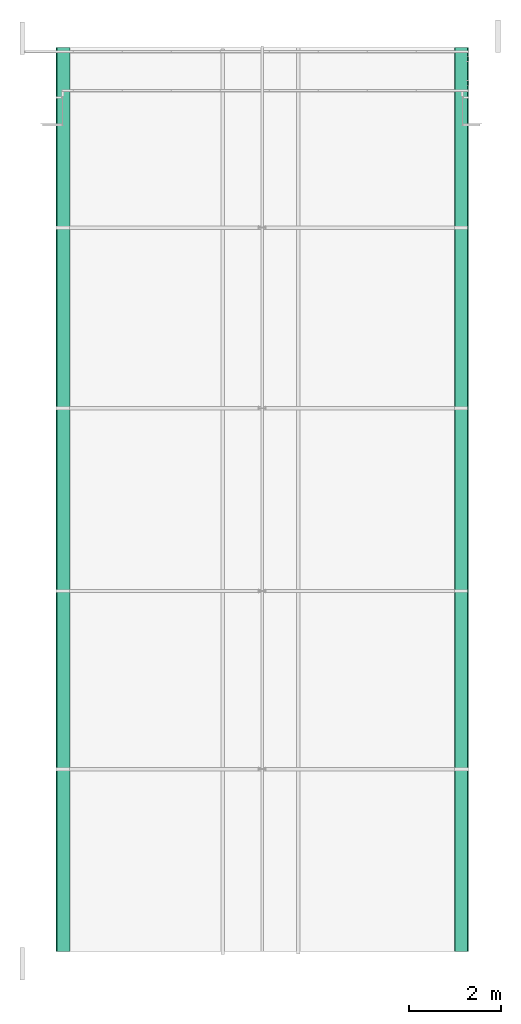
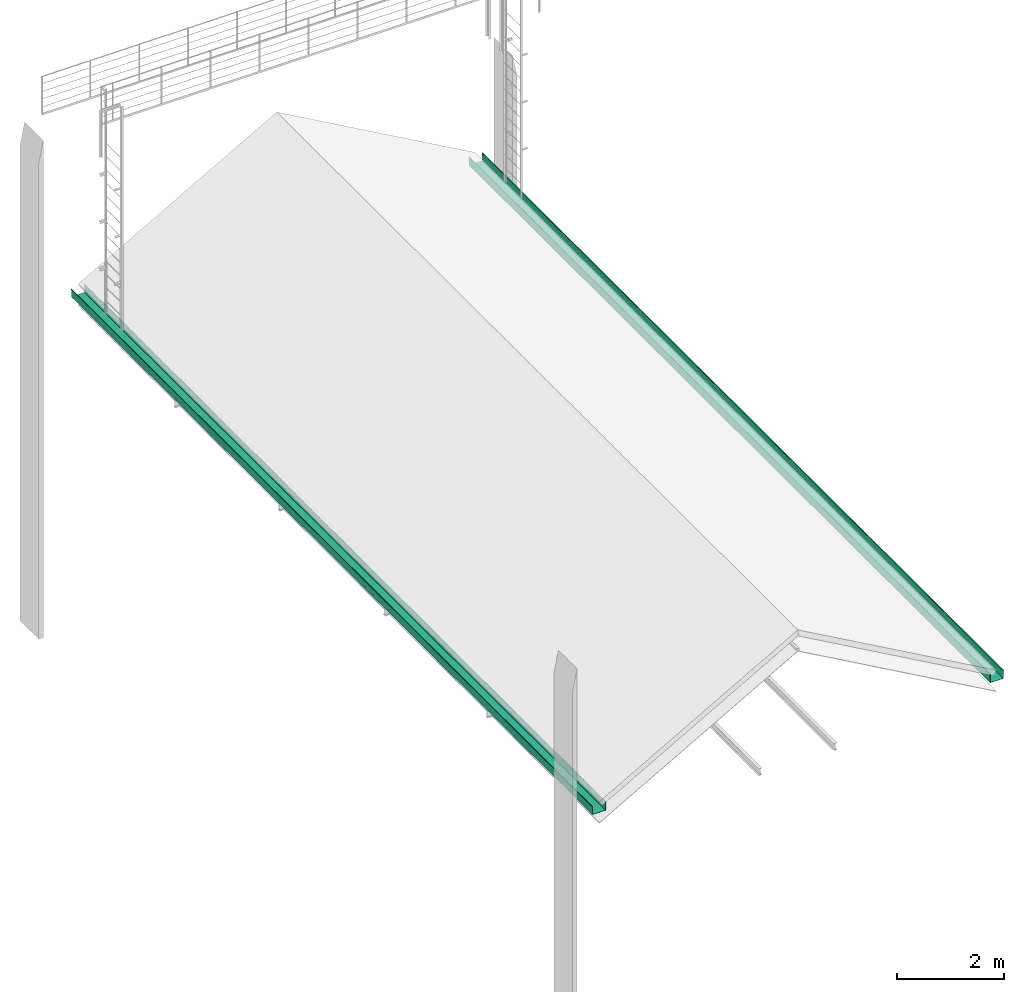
# One storey, part 9 of 10: 2 flow segments.
"""IFC2X3 building model written with IfcOpenShell, lengths in metres."""

from ifc_helpers import new_model, entity, si_unit, converted_unit, derived_unit, direction, frame, origin, place, context, subcontext, project, spatial, polyline, outline, extrude, source, transform, mapped, type_object, type_shapes, element, save


model = new_model("IFC2X3")

# Units and contexts
model_context = context("Model", 3, precision=1e-05, world=origin(), true_north=direction((6.12303176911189e-17, 1.0)))
body_context = subcontext(model_context, "Body", "Model", "MODEL_VIEW")
ifc_project = project(units=[si_unit("LENGTHUNIT", "METRE"), si_unit("AREAUNIT", "SQUARE_METRE"), si_unit("VOLUMEUNIT", "CUBIC_METRE"), converted_unit("PLANEANGLEUNIT", "DEGREE", entity("IfcRatioMeasure", 0.0174532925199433), si_unit("PLANEANGLEUNIT", "RADIAN"), dimensions=[0, 0, 0, 0, 0, 0, 0]), si_unit("MASSUNIT", "GRAM", prefix="KILO"), derived_unit("MASSDENSITYUNIT", [(si_unit("MASSUNIT", "GRAM", prefix="KILO"), 1), (si_unit("LENGTHUNIT", "METRE"), -3)]), derived_unit("MOMENTOFINERTIAUNIT", [(si_unit("LENGTHUNIT", "METRE"), 4)]), si_unit("TIMEUNIT", "SECOND"), si_unit("FREQUENCYUNIT", "HERTZ"), si_unit("THERMODYNAMICTEMPERATUREUNIT", "DEGREE_CELSIUS"), derived_unit("THERMALTRANSMITTANCEUNIT", [(si_unit("MASSUNIT", "GRAM", prefix="KILO"), 1), (si_unit("THERMODYNAMICTEMPERATUREUNIT", "KELVIN"), -1), (si_unit("TIMEUNIT", "SECOND"), -3)]), derived_unit("VOLUMETRICFLOWRATEUNIT", [(si_unit("LENGTHUNIT", "METRE"), 3), (si_unit("TIMEUNIT", "SECOND"), -1)]), si_unit("ELECTRICCURRENTUNIT", "AMPERE"), si_unit("ELECTRICVOLTAGEUNIT", "VOLT"), si_unit("POWERUNIT", "WATT"), si_unit("FORCEUNIT", "NEWTON", prefix="KILO"), si_unit("ILLUMINANCEUNIT", "LUX"), si_unit("LUMINOUSFLUXUNIT", "LUMEN"), si_unit("LUMINOUSINTENSITYUNIT", "CANDELA"), derived_unit("USERDEFINED", [(si_unit("MASSUNIT", "GRAM", prefix="KILO"), -1), (si_unit("LENGTHUNIT", "METRE"), -2), (si_unit("TIMEUNIT", "SECOND"), 3), (si_unit("LUMINOUSFLUXUNIT", "LUMEN"), 1)]), derived_unit("LINEARVELOCITYUNIT", [(si_unit("LENGTHUNIT", "METRE"), 1), (si_unit("TIMEUNIT", "SECOND"), -1)]), si_unit("PRESSUREUNIT", "PASCAL"), derived_unit("USERDEFINED", [(si_unit("LENGTHUNIT", "METRE"), -2), (si_unit("MASSUNIT", "GRAM", prefix="KILO"), 1), (si_unit("TIMEUNIT", "SECOND"), -2)]), derived_unit("LINEARFORCEUNIT", [(si_unit("MASSUNIT", "GRAM", prefix="KILO"), 1), (si_unit("LENGTHUNIT", "METRE"), 1), (si_unit("TIMEUNIT", "SECOND"), -2), (si_unit("LENGTHUNIT", "METRE"), -1)]), derived_unit("PLANARFORCEUNIT", [(si_unit("MASSUNIT", "GRAM", prefix="KILO"), 1), (si_unit("LENGTHUNIT", "METRE"), 1), (si_unit("TIMEUNIT", "SECOND"), -2), (si_unit("LENGTHUNIT", "METRE"), -2)])], contexts=[model_context])

# Site, building, storey
site_placement = place(None, origin())
site = spatial("IfcSite", under=ifc_project, at=site_placement, Name="Superficie", CompositionType="ELEMENT")
building_placement = place(site_placement, origin())
building = spatial("IfcBuilding", under=site, at=building_placement, Name="Telegestiones", CompositionType="ELEMENT")
storey_placement = place(building_placement, frame((0.0, 0.0, 13.23)))
storey = spatial("IfcBuildingStorey", under=building, at=storey_placement, Name="Nivel 3_SUP", CompositionType="ELEMENT", Elevation=13.23)

# Flow segments
pipe_segment_type_1 = type_object("IfcPipeSegmentType", Name="Canalón:ARQ-CAN-EXT-20x30-Hi", PredefinedType="GUTTER")
shared_shape_1 = source(origin(), body_context, "Body", "SweptSolid", [
    extrude(outline(polyline([(-0.132424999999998, -0.208389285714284), (0.067575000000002, -0.208389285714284), (0.067575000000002, -0.205214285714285), (-0.129249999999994, -0.205214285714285), (-0.129249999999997, 0.0757357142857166), (0.0453500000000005, 0.0757357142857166), (0.0453500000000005, 0.0884357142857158), (0.0517000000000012, 0.0884357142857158), (0.0517000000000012, 0.0789107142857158), (0.0548750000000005, 0.0789107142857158), (0.0548750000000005, 0.0916107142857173), (0.0421750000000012, 0.0916107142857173), (0.0421750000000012, 0.0789107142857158), (-0.132424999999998, 0.0789107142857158), (-0.132424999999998, -0.208389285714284)])), frame((14.8658012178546, -5.80636712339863, 0.292424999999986), z_axis=(0.0, 1.0, 0.0), x_axis=(0.0, 0.0, 1.0)), (0.0, 0.0, 1.0), 19.5499743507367),
])
type_shapes(pipe_segment_type_1, [shared_shape_1])
flow_segment_1_placement = place(storey_placement, origin())
element("IfcFlowSegment", 1, at=flow_segment_1_placement, inside=storey, type_object=pipe_segment_type_1, Name="Canalón:ARQ-CAN-EXT-20x30-Hi", ObjectType="Canalón:ARQ-CAN-EXT-20x30-Hi", context=body_context, shape_type="MappedRepresentation", body=[
    mapped(shared_shape_1, transform((0.0, 0.0, 0.0), scale=1.0)),
])
pipe_segment_type_2 = type_object("IfcPipeSegmentType", Name="Canalón:ARQ-CAN-EXT-20x30-Hi", PredefinedType="GUTTER")
shared_shape_2 = source(origin(), body_context, "Body", "SweptSolid", [
    extrude(outline(polyline([(-0.208389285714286, -0.132425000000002), (0.0789107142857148, -0.132425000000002), (0.0789107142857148, 0.0421749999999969), (0.0916107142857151, 0.0421749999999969), (0.0916107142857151, 0.0548749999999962), (0.0789107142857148, 0.0548749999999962), (0.0789107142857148, 0.0516999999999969), (0.0884357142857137, 0.0516999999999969), (0.0884357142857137, 0.0453499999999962), (0.0757357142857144, 0.0453499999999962), (0.0757357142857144, -0.129249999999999), (-0.205214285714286, -0.129249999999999), (-0.205214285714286, 0.0675749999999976), (-0.208389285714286, 0.0675749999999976), (-0.208389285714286, -0.132425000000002)])), frame((6.12551958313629, -5.80636712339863, 0.292425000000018), z_axis=(0.0, 1.0, 0.0), x_axis=(-1.0, 0.0, 0.0)), (0.0, 0.0, 1.0), 19.5499743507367),
])
type_shapes(pipe_segment_type_2, [shared_shape_2])
flow_segment_2_placement = place(storey_placement, origin())
element("IfcFlowSegment", 2, at=flow_segment_2_placement, inside=storey, type_object=pipe_segment_type_2, Name="Canalón:ARQ-CAN-EXT-20x30-Hi", ObjectType="Canalón:ARQ-CAN-EXT-20x30-Hi", context=body_context, shape_type="MappedRepresentation", body=[
    mapped(shared_shape_2, transform((0.0, 0.0, 0.0), scale=1.0)),
])

save(model, "model.ifc")
